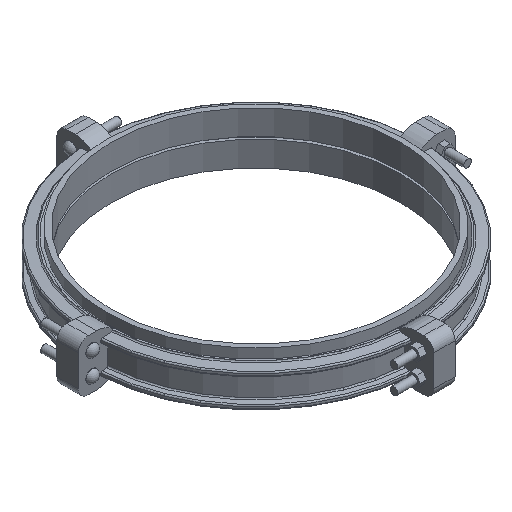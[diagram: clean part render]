
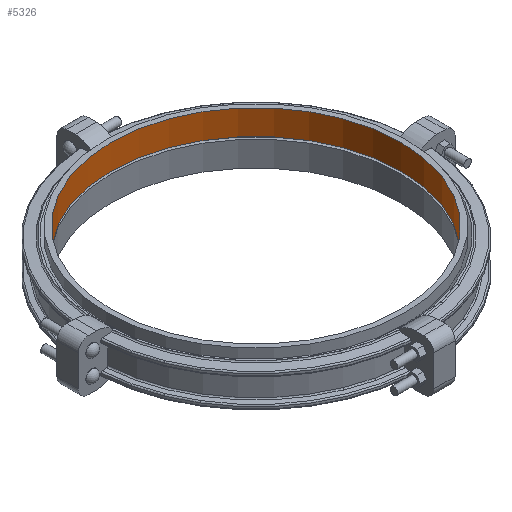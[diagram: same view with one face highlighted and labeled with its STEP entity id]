
A CAD part, isometric view. The second image highlights one B-rep face of the part: STEP entity #5326.
In plain terms, the highlighted cylindrical face has radius 736.6 mm (diameter 1473.2 mm), a full revolution.
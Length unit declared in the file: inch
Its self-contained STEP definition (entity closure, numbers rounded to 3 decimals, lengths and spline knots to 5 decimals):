
#270=CYLINDRICAL_SURFACE('',#5937,29.);
#588=FACE_OUTER_BOUND('',#906,.T.);
#906=EDGE_LOOP('',(#4630,#4631,#4632,#4633,#4634,#4635));
#1291=LINE('',#10065,#1674);
#1674=VECTOR('',#7388,29.);
#1927=CIRCLE('',#5935,29.);
#1928=CIRCLE('',#5936,29.);
#1929=CIRCLE('',#5938,29.);
#1930=CIRCLE('',#5939,29.);
#2431=VERTEX_POINT('',#10059);
#2432=VERTEX_POINT('',#10060);
#2433=VERTEX_POINT('',#10064);
#2434=VERTEX_POINT('',#10066);
#3165=EDGE_CURVE('',#2431,#2432,#1927,.T.);
#3166=EDGE_CURVE('',#2432,#2431,#1928,.T.);
#3167=EDGE_CURVE('',#2432,#2433,#1291,.T.);
#3168=EDGE_CURVE('',#2434,#2433,#1929,.T.);
#3169=EDGE_CURVE('',#2433,#2434,#1930,.T.);
#4630=ORIENTED_EDGE('',*,*,#3165,.T.);
#4631=ORIENTED_EDGE('',*,*,#3167,.T.);
#4632=ORIENTED_EDGE('',*,*,#3168,.F.);
#4633=ORIENTED_EDGE('',*,*,#3169,.F.);
#4634=ORIENTED_EDGE('',*,*,#3167,.F.);
#4635=ORIENTED_EDGE('',*,*,#3166,.T.);
#5326=ADVANCED_FACE('',(#588),#270,.F.);
#5935=AXIS2_PLACEMENT_3D('',#10061,#7382,#7383);
#5936=AXIS2_PLACEMENT_3D('',#10062,#7384,#7385);
#5937=AXIS2_PLACEMENT_3D('',#10063,#7386,#7387);
#5938=AXIS2_PLACEMENT_3D('',#10067,#7389,#7390);
#5939=AXIS2_PLACEMENT_3D('',#10068,#7391,#7392);
#7382=DIRECTION('center_axis',(0.,0.,-1.));
#7383=DIRECTION('ref_axis',(1.,0.,0.));
#7384=DIRECTION('center_axis',(0.,0.,-1.));
#7385=DIRECTION('ref_axis',(1.,0.,0.));
#7386=DIRECTION('center_axis',(0.,0.,-1.));
#7387=DIRECTION('ref_axis',(0.,1.,0.));
#7388=DIRECTION('',(0.,0.,1.));
#7389=DIRECTION('center_axis',(0.,0.,-1.));
#7390=DIRECTION('ref_axis',(1.,0.,0.));
#7391=DIRECTION('center_axis',(0.,0.,-1.));
#7392=DIRECTION('ref_axis',(1.,0.,0.));
#10059=CARTESIAN_POINT('',(0.,29.,0.));
#10060=CARTESIAN_POINT('',(0.,-29.,0.));
#10061=CARTESIAN_POINT('Origin',(0.,0.,0.));
#10062=CARTESIAN_POINT('Origin',(0.,0.,0.));
#10063=CARTESIAN_POINT('Origin',(0.,0.,2.5));
#10064=CARTESIAN_POINT('',(0.,-29.,5.));
#10065=CARTESIAN_POINT('',(0.,-29.,2.5));
#10066=CARTESIAN_POINT('',(0.,29.,5.));
#10067=CARTESIAN_POINT('Origin',(0.,0.,5.));
#10068=CARTESIAN_POINT('Origin',(0.,0.,5.));
